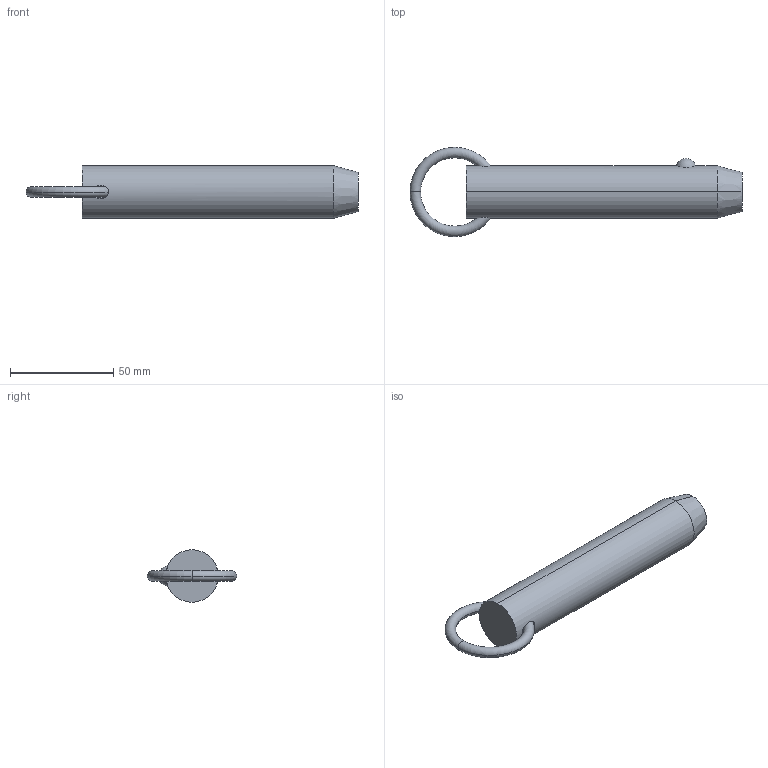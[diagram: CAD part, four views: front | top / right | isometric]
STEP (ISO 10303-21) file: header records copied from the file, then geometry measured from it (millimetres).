
FILE_DESCRIPTION (( 'STEP AP203' ), '1' );
FILE_NAME ('33010.W1035.step', '2024-11-01T10:47:54', ( '' ), ( '' ), 'SwSTEP 2.0', 'SolidWorks 2019', '' );
FILE_SCHEMA (( 'CONFIG_CONTROL_DESIGN' ));
Length unit declared in the file: millimetre
Products named in the file (3): 33010.W1035; Part1_33010.W1035; Part2_33010.W1035
Assembly tree (2 placements, depth 2):
  33010.W1035
    Part1_33010.W1035
    Part2_33010.W1035
Bounding box: 160.48 x 43.18 x 25.4 mm (x, y, z)
Volume: 67905.2 mm3; surface area: 13765.4 mm2
Topology: 2 solids, 2 shells, 18 faces, 37 edges, 22 vertices
Faces by surface type: torus 8, plane 4, sphere 2, cone 2, cylinder 2
Entity records: 975 total; most frequent: CARTESIAN_POINT 280, DIRECTION 100, ORIENTED_EDGE 74, AXIS2_PLACEMENT_3D 48, EDGE_CURVE 37, PERSON_AND_ORGANIZATION 26, CIRCLE 25, VERTEX_POINT 22
